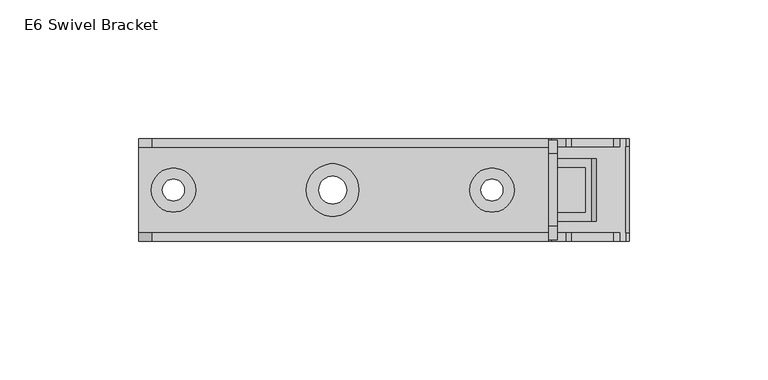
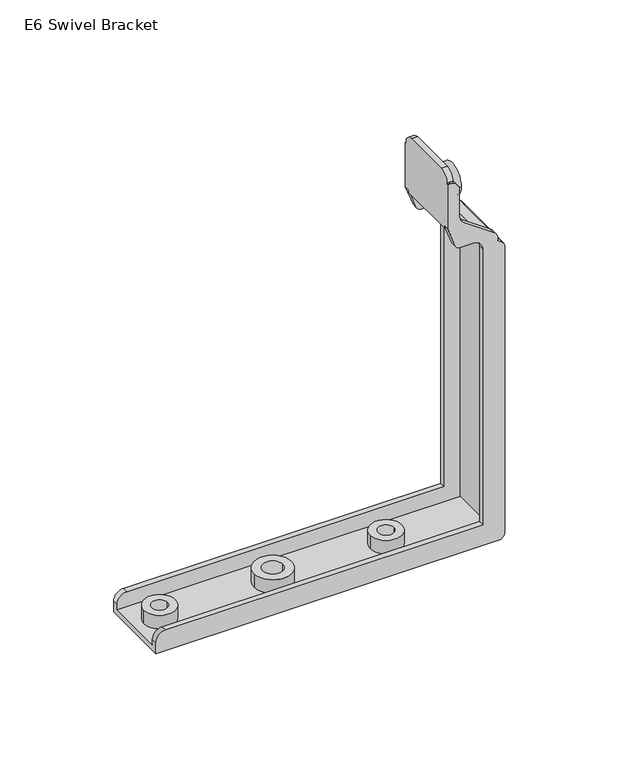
"""IFC4 building model written with IfcOpenShell, lengths in millimetres: proxy geometry, d&b E-Series E6 Swivel Bracket : E6 Swivel Bracket."""

from ifc_helpers import new_model, si_unit, point, frame, frame_2d, origin, origin_2d, place, context, project, spatial, polyline, circle_curve, trimmed, segment, composite_curve, outline, extrude, source, transform, mapped, element, save
from ifc_brep_helpers import plane_surface, cylinder_surface, revolved_surface, advanced_brep


def e6_swivel_bracket_26cc3f17(model_context):
    return source(origin(), model_context, "Body", "SolidModel", [
        advanced_brep(
        [(81.0, -18.0, 11.5825757), (81.0, -15.5, 11.5825757), (81.0, -15.5, -11.2329029), (81.0, 15.5, -11.2329029), (81.0, 15.5, 11.5825757), (81.0, 18.0, 11.5825757), (81.0, 18.0, 12.5), (81.0, 13.0, 17.5), (81.0, -13.0, 17.5), (81.0, -18.0, 12.5), (78.0, 18.0, 12.5), (78.0, 18.0, 12.0), (78.0, 18.5, 12.0), (78.0, 18.5, -11.5897638), (78.0, 15.5, -11.5897638), (78.0, 15.5, -12.794604), (78.0, -15.5, -12.794604), (78.0, -15.5, -11.5897638), (78.0, -18.5, -11.5897638), (78.0, -18.5, 12.0), (78.0, -18.0, 12.0), (78.0, -18.0, 12.5), (78.0, -13.0, 17.5), (78.0, 13.0, 17.5), (79.0, -18.0, 12.0), (79.0, 18.0, 12.0), (78.5885107, -15.5, -13.2066836), (78.5885107, 15.5, -13.2066836), (103.5749026, -15.5, -188.0), (103.5749026, -18.5, -188.0), (-70.0, -18.5, -188.0), (-70.0, 18.5, -188.0), (103.5749026, 18.5, -188.0), (103.5749026, 15.5, -188.0), (-61.4155031, 0.0, -188.0), (-53.4660711, 0.0, -188.0), (61.4155031, 0.0, -188.0), (53.4660711, 0.0, -188.0), (-5.0, 0.0, -188.0), (5.0, 0.0, -188.0), (107.0, -15.5, -31.1095724), (107.0, -18.5, -31.1095724), (107.0, -18.5, -184.5749026), (107.0, -15.5, -184.5749026), (107.0, 15.5, -184.5749026), (107.0, 18.5, -184.5749026), (107.0, 18.5, -31.1095724), (107.0, 15.5, -31.1095724), (105.6309729, 15.5, -28.4796957), (105.6309729, -15.5, -28.4796957), (105.6309729, 18.5, -28.4796957), (103.5, 18.5, -26.9875725), (103.5, 15.5, -26.9875725), (103.5, -15.5, -26.9875725), (103.5, -18.5, -26.9875725), (105.6309729, -18.5, -28.4796957), (95.1387965, -11.25, -21.1329948), (81.2132118, -11.25, -11.3821954), (81.2132118, 11.25, -11.3821954), (95.1387965, 11.25, -21.1329948), (104.0, 15.5, -185.0), (-70.0, 15.5, -185.0), (-70.0, -15.5, -185.0), (104.0, -15.5, -185.0), (-61.4155031, 0.0, -185.0), (-53.4660711, 0.0, -185.0), (61.4155031, 0.0, -185.0), (53.4660711, 0.0, -185.0), (-5.0, 0.0, -185.0), (5.0, 0.0, -185.0), (104.0, -15.5, -31.0), (104.0, 15.5, -31.0), (93.4180672, 11.25, -23.5904509), (79.4924825, 11.25, -13.8396515), (79.4924825, -11.25, -13.8396515), (93.4180672, -11.25, -23.5904509), (84.0, -15.5, 7.0), (84.0, -15.5, -7.0683665), (86.1321178, -15.5, -11.1641267), (101.3678822, -15.5, -21.8323237), (103.5, -15.5, -25.928084), (81.8573688, -15.5, -22.1877975), (-70.0, -15.5, -182.0), (-65.0, -15.5, -177.0), (96.0, -15.5, -177.0), (96.0, -15.5, -28.8228727), (91.0, -15.5, -23.8228727), (84.1924983, -15.5, -23.8228727), (84.0, -18.5, 7.0), (79.0, -18.5, 12.0), (81.8573688, -18.5, -22.1877975), (84.1924983, -18.5, -23.8228727), (91.0, -18.5, -23.8228727), (96.0, -18.5, -28.8228727), (96.0, -18.5, -177.0), (-65.0, -18.5, -177.0), (-70.0, -18.5, -182.0), (103.5, -18.5, -25.928084), (101.3678822, -18.5, -21.8323237), (86.1321178, -18.5, -11.1641267), (84.0, -18.5, -7.0683665), (-70.0, 15.5, -182.0), (81.8573688, 15.5, -22.1877975), (84.1924983, 15.5, -23.8228727), (91.0, 15.5, -23.8228727), (96.0, 15.5, -28.8228727), (96.0, 15.5, -177.0), (-65.0, 15.5, -177.0), (84.0, 15.5, 7.0), (103.5, 15.5, -25.928084), (101.3678822, 15.5, -21.8323237), (86.1321178, 15.5, -11.1641267), (84.0, 15.5, -7.0683665), (84.0, 18.5, 7.0), (84.0, 18.5, -7.0683665), (86.1321178, 18.5, -11.1641267), (101.3678822, 18.5, -21.8323237), (103.5, 18.5, -25.928084), (-70.0, 18.5, -182.0), (-65.0, 18.5, -177.0), (96.0, 18.5, -177.0), (96.0, 18.5, -28.8228727), (91.0, 18.5, -23.8228727), (84.1924983, 18.5, -23.8228727), (81.8573688, 18.5, -22.1877975), (79.0, 18.5, 12.0)],
        [
            (0, 1),
            (1, 2),
            (2, 3),
            (3, 4),
            (4, 5),
            (5, 6),
            (6, 7, circle_curve(frame((81.0, 13.0, 12.5), z_axis=(1.0, 0.0, 0.0), x_axis=(0.0, 0.0, -1.0)), 5.0)),
            (7, 8),
            (8, 9, circle_curve(frame((81.0, -13.0, 12.5), z_axis=(1.0, 0.0, 0.0), x_axis=(0.0, 0.0, -1.0)), 5.0)),
            (9, 0),
            (10, 11),
            (11, 12),
            (12, 13),
            (13, 14),
            (14, 15),
            (15, 16),
            (16, 17),
            (17, 18),
            (18, 19),
            (19, 20),
            (20, 21),
            (21, 22, circle_curve(frame((78.0, -13.0, 12.5), z_axis=(-1.0, 0.0, 0.0), x_axis=(0.0, 0.0, -1.0)), 5.0)),
            (22, 23),
            (23, 10, circle_curve(frame((78.0, 13.0, 12.5), z_axis=(-1.0, 0.0, 0.0), x_axis=(0.0, 0.0, -1.0)), 5.0)),
            (9, 21),
            (20, 24),
            (24, 0, circle_curve(frame((79.0, -18.0, 7.0), z_axis=(0.0, 1.0, 0.0), x_axis=(1.0, 0.0, 0.0)), 5.0)),
            (7, 23),
            (22, 8),
            (6, 10),
            (5, 25, circle_curve(frame((79.0, 18.0, 7.0), z_axis=(0.0, -1.0, 0.0), x_axis=(1.0, 0.0, 0.0)), 5.0)),
            (25, 11),
            (26, 17),
            (16, 26),
            (14, 27),
            (27, 15),
            (28, 29),
            (29, 30),
            (30, 31),
            (31, 32),
            (32, 33),
            (33, 28),
            (34, 35, circle_curve(frame((-57.4407871, 0.0, -188.0), z_axis=(0.0, 0.0, 1.0), x_axis=(1.0, 0.0, 0.0)), 3.974716)),
            (35, 34, circle_curve(frame((-57.4407871, 0.0, -188.0), z_axis=(0.0, 0.0, 1.0), x_axis=(1.0, 0.0, 0.0)), 3.974716)),
            (36, 37, circle_curve(frame((57.4407871, 0.0, -188.0), z_axis=(0.0, 0.0, 1.0), x_axis=(-1.0, 0.0, 0.0)), 3.974716)),
            (37, 36, circle_curve(frame((57.4407871, 0.0, -188.0), z_axis=(0.0, 0.0, 1.0), x_axis=(-1.0, 0.0, 0.0)), 3.974716)),
            (38, 39, circle_curve(frame((0.0, 0.0, -188.0), z_axis=(0.0, 0.0, 1.0), x_axis=(1.0, 0.0, 0.0)), 5.0)),
            (39, 38, circle_curve(frame((0.0, 0.0, -188.0), z_axis=(0.0, 0.0, 1.0), x_axis=(1.0, 0.0, 0.0)), 5.0)),
            (40, 41),
            (41, 42),
            (42, 43),
            (43, 44),
            (44, 45),
            (45, 46),
            (46, 47),
            (47, 40),
            (47, 48, circle_curve(frame((103.7895134, 15.5, -31.1095724), z_axis=(0.0, -1.0, 0.0), x_axis=(1.0, 0.0, 0.0)), 3.2104866)),
            (48, 49),
            (49, 40, circle_curve(frame((103.7895134, -15.5, -31.1095724), z_axis=(0.0, 1.0, 0.0), x_axis=(1.0, 0.0, 0.0)), 3.2104866)),
            (48, 50),
            (50, 51),
            (51, 52),
            (52, 3),
            (2, 53),
            (53, 54),
            (54, 55),
            (55, 49),
            (56, 57),
            (57, 58),
            (58, 59),
            (59, 56),
            (33, 44, circle_curve(frame((103.5749026, 15.5, -184.5749026), z_axis=(0.0, -1.0, 0.0), x_axis=(1.0, 0.0, 0.0)), 3.4250974)),
            (43, 28, circle_curve(frame((103.5749026, -15.5, -184.5749026), z_axis=(0.0, 1.0, 0.0), x_axis=(1.0, 0.0, 0.0)), 3.4250974)),
            (60, 61),
            (61, 62),
            (62, 63),
            (63, 60),
            (64, 65, circle_curve(frame((-57.4407871, 0.0, -185.0), z_axis=(0.0, 0.0, -1.0), x_axis=(1.0, 0.0, 0.0)), 3.974716)),
            (65, 64, circle_curve(frame((-57.4407871, 0.0, -185.0), z_axis=(0.0, 0.0, -1.0), x_axis=(1.0, 0.0, 0.0)), 3.974716)),
            (66, 67, circle_curve(frame((57.4407871, 0.0, -185.0), z_axis=(0.0, 0.0, -1.0), x_axis=(-1.0, 0.0, 0.0)), 3.974716)),
            (67, 66, circle_curve(frame((57.4407871, 0.0, -185.0), z_axis=(0.0, 0.0, -1.0), x_axis=(-1.0, 0.0, 0.0)), 3.974716)),
            (68, 69, circle_curve(frame((0.0, 0.0, -185.0), z_axis=(0.0, 0.0, -1.0), x_axis=(1.0, 0.0, 0.0)), 5.0)),
            (69, 68, circle_curve(frame((0.0, 0.0, -185.0), z_axis=(0.0, 0.0, -1.0), x_axis=(1.0, 0.0, 0.0)), 5.0)),
            (63, 70),
            (70, 71),
            (71, 60),
            (70, 26),
            (27, 71),
            (72, 73),
            (73, 74),
            (74, 75),
            (75, 72),
            (1, 76, circle_curve(frame((79.0, -15.5, 7.0), z_axis=(0.0, 1.0, 0.0), x_axis=(1.0, 0.0, 0.0)), 5.0)),
            (76, 77),
            (77, 78, circle_curve(frame((89.0, -15.5, -7.0683665), z_axis=(0.0, -1.0, 0.0), x_axis=(1.0, 0.0, 0.0)), 5.0)),
            (78, 79),
            (79, 80, circle_curve(frame((98.5, -15.5, -25.928084), z_axis=(0.0, 1.0, 0.0), x_axis=(1.0, 0.0, 0.0)), 5.0)),
            (80, 53),
            (81, 26),
            (62, 82),
            (82, 83, circle_curve(frame((-65.0, -15.5, -182.0), z_axis=(0.0, 1.0, 0.0), x_axis=(1.0, 0.0, 0.0)), 5.0)),
            (83, 84),
            (84, 85),
            (85, 86, circle_curve(frame((91.0, -15.5, -28.8228727), z_axis=(0.0, -1.0, 0.0), x_axis=(1.0, 0.0, 0.0)), 5.0)),
            (86, 87),
            (87, 81, circle_curve(frame((84.1924983, -15.5, -21.3378799), z_axis=(0.0, 1.0, 0.0), x_axis=(1.0, 0.0, 0.0)), 2.4849928)),
            (88, 89, circle_curve(frame((79.0, -18.5, 7.0), z_axis=(0.0, -1.0, 0.0), x_axis=(1.0, 0.0, 0.0)), 5.0)),
            (89, 19),
            (18, 90),
            (90, 91, circle_curve(frame((84.1924983, -18.5, -21.3378799), z_axis=(0.0, -1.0, 0.0), x_axis=(1.0, 0.0, 0.0)), 2.4849928)),
            (91, 92),
            (92, 93, circle_curve(frame((91.0, -18.5, -28.8228727), z_axis=(0.0, 1.0, 0.0), x_axis=(1.0, 0.0, 0.0)), 5.0)),
            (93, 94),
            (94, 95),
            (95, 96, circle_curve(frame((-65.0, -18.5, -182.0), z_axis=(0.0, -1.0, 0.0), x_axis=(1.0, 0.0, 0.0)), 5.0)),
            (96, 30),
            (29, 42, circle_curve(frame((103.5749026, -18.5, -184.5749026), z_axis=(0.0, -1.0, 0.0), x_axis=(1.0, 0.0, 0.0)), 3.4250974)),
            (41, 55, circle_curve(frame((103.7895134, -18.5, -31.1095724), z_axis=(0.0, -1.0, 0.0), x_axis=(1.0, 0.0, 0.0)), 3.2104866)),
            (54, 97),
            (97, 98, circle_curve(frame((98.5, -18.5, -25.928084), z_axis=(0.0, -1.0, 0.0), x_axis=(1.0, 0.0, 0.0)), 5.0)),
            (98, 99),
            (99, 100, circle_curve(frame((89.0, -18.5, -7.0683665), z_axis=(0.0, 1.0, 0.0), x_axis=(1.0, 0.0, 0.0)), 5.0)),
            (100, 88),
            (88, 76),
            (24, 89),
            (81, 90),
            (87, 91),
            (86, 92),
            (85, 93),
            (84, 94),
            (83, 95),
            (82, 96),
            (80, 97),
            (79, 98),
            (78, 99),
            (77, 100),
            (101, 61),
            (27, 102),
            (102, 103, circle_curve(frame((84.1924983, 15.5, -21.3378799), z_axis=(0.0, -1.0, 0.0), x_axis=(1.0, 0.0, 0.0)), 2.4849928)),
            (103, 104),
            (104, 105, circle_curve(frame((91.0, 15.5, -28.8228727), z_axis=(0.0, 1.0, 0.0), x_axis=(1.0, 0.0, 0.0)), 5.0)),
            (105, 106),
            (106, 107),
            (107, 101, circle_curve(frame((-65.0, 15.5, -182.0), z_axis=(0.0, -1.0, 0.0), x_axis=(1.0, 0.0, 0.0)), 5.0)),
            (108, 4, circle_curve(frame((79.0, 15.5, 7.0), z_axis=(0.0, -1.0, 0.0), x_axis=(1.0, 0.0, 0.0)), 5.0)),
            (52, 109),
            (109, 110, circle_curve(frame((98.5, 15.5, -25.928084), z_axis=(0.0, -1.0, 0.0), x_axis=(1.0, 0.0, 0.0)), 5.0)),
            (110, 111),
            (111, 112, circle_curve(frame((89.0, 15.5, -7.0683665), z_axis=(0.0, 1.0, 0.0), x_axis=(1.0, 0.0, 0.0)), 5.0)),
            (112, 108),
            (113, 114),
            (114, 115, circle_curve(frame((89.0, 18.5, -7.0683665), z_axis=(0.0, -1.0, 0.0), x_axis=(1.0, 0.0, 0.0)), 5.0)),
            (115, 116),
            (116, 117, circle_curve(frame((98.5, 18.5, -25.928084), z_axis=(0.0, 1.0, 0.0), x_axis=(1.0, 0.0, 0.0)), 5.0)),
            (117, 51),
            (50, 46, circle_curve(frame((103.7895134, 18.5, -31.1095724), z_axis=(0.0, 1.0, 0.0), x_axis=(1.0, 0.0, 0.0)), 3.2104866)),
            (45, 32, circle_curve(frame((103.5749026, 18.5, -184.5749026), z_axis=(0.0, 1.0, 0.0), x_axis=(1.0, 0.0, 0.0)), 3.4250974)),
            (31, 118),
            (118, 119, circle_curve(frame((-65.0, 18.5, -182.0), z_axis=(0.0, 1.0, 0.0), x_axis=(1.0, 0.0, 0.0)), 5.0)),
            (119, 120),
            (120, 121),
            (121, 122, circle_curve(frame((91.0, 18.5, -28.8228727), z_axis=(0.0, -1.0, 0.0), x_axis=(1.0, 0.0, 0.0)), 5.0)),
            (122, 123),
            (123, 124, circle_curve(frame((84.1924983, 18.5, -21.3378799), z_axis=(0.0, 1.0, 0.0), x_axis=(1.0, 0.0, 0.0)), 2.4849928)),
            (124, 13),
            (12, 125),
            (125, 113, circle_curve(frame((79.0, 18.5, 7.0), z_axis=(0.0, 1.0, 0.0), x_axis=(1.0, 0.0, 0.0)), 5.0)),
            (125, 25),
            (108, 113),
            (124, 102),
            (123, 103),
            (122, 104),
            (121, 105),
            (120, 106),
            (119, 107),
            (118, 101),
            (117, 109),
            (116, 110),
            (115, 111),
            (114, 112),
            (59, 72),
            (75, 56),
            (58, 73),
            (57, 74),
            (65, 35),
            (34, 64),
            (67, 37),
            (36, 66),
            (69, 39),
            (38, 68),
        ],
        [
            plane_surface(frame((81.0, -15.5, 12.4997013), z_axis=(1.0, 0.0, 0.0), x_axis=(0.0, -1.0, 0.0))),
            plane_surface(frame((78.0, -15.5, 12.4997013), z_axis=(-1.0, 0.0, 0.0), x_axis=(0.0, 1.0, 0.0))),
            plane_surface(frame((81.0, -18.0, 11.5825757), z_axis=(0.0, -1.0, 0.0), x_axis=(-1.0, 0.0, 0.0))),
            plane_surface(frame((81.0, -13.0, 17.5), z_axis=(0.0, 0.0, 1.0), x_axis=(-1.0, 0.0, 0.0))),
            cylinder_surface(frame((78.0, 13.0, 12.5), z_axis=(1.0, 0.0, 0.0), x_axis=(0.0, 0.0, -1.0)), 5.0),
            plane_surface(frame((81.0, 18.0, 12.5), z_axis=(0.0, 1.0, 0.0), x_axis=(-1.0, 0.0, 0.0))),
            cylinder_surface(frame((78.0, -13.0, 12.5), z_axis=(1.0, 0.0, 0.0), x_axis=(0.0, 0.0, -1.0)), 5.0),
            plane_surface(frame((107.0, -15.5, -184.5749026), z_axis=(0.0, -1.0, 0.0), x_axis=(0.0, 0.0, -1.0))),
            plane_surface(frame((107.0, 15.5, -184.5749026), z_axis=(0.0, 1.0, 0.0), x_axis=(0.0, 0.0, 1.0))),
            plane_surface(frame((103.5749026, -15.5, -188.0), z_axis=(0.0, 0.0, -1.0), x_axis=(0.0, 1.0, 0.0))),
            plane_surface(frame((107.0, -15.5, -31.1095724), z_axis=(1.0, 0.0, 0.0), x_axis=(0.0, 1.0, 0.0))),
            cylinder_surface(frame((103.7895134, 15.5, -31.1095724), z_axis=(0.0, -1.0, 0.0), x_axis=(1.0, 0.0, 0.0)), 3.2104866),
            plane_surface(frame((81.0, -15.5, -11.2329029), z_axis=(0.5735764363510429, 0.0, 0.819152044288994), x_axis=(0.0, 1.0, 0.0))),
            cylinder_surface(frame((103.5749026, 15.5, -184.5749026), z_axis=(0.0, -1.0, 0.0), x_axis=(1.0, 0.0, 0.0)), 3.4250974),
            plane_surface(frame((99.0, -15.5, -185.0), z_axis=(0.0, 0.0, 1.0), x_axis=(0.0, 1.0, 0.0))),
            plane_surface(frame((104.0, -15.5, -185.0), z_axis=(-1.0, 0.0, 0.0), x_axis=(0.0, 1.0, 0.0))),
            plane_surface(frame((104.0, -15.5, -31.0), z_axis=(-0.5735764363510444, 0.0, -0.8191520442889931), x_axis=(0.0, 1.0, 0.0))),
            plane_surface(frame((84.0, -15.5, 7.0), z_axis=(0.0, 1.0, 0.0), x_axis=(0.0, 0.0, 1.0))),
            plane_surface(frame((84.0, -18.5, 7.0), z_axis=(0.0, -1.0, 0.0), x_axis=(0.0, 0.0, -1.0))),
            cylinder_surface(frame((79.0, -18.5, 7.0), z_axis=(0.0, 1.0, 0.0), x_axis=(1.0, 0.0, 0.0)), 5.0),
            plane_surface(frame((79.0, -15.5, 12.0), z_axis=(0.0, 0.0, 1.0), x_axis=(0.0, -1.0, 0.0))),
            plane_surface(frame((78.0, -15.5, -11.5897638), z_axis=(-0.9396926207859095, 0.0, -0.34202014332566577), x_axis=(0.0, -1.0, 0.0))),
            cylinder_surface(frame((84.1924983, -18.5, -21.3378799), z_axis=(0.0, 1.0, 0.0), x_axis=(1.0, 0.0, 0.0)), 2.4849928),
            plane_surface(frame((84.1924983, -15.5, -23.8228727), z_axis=(0.0, 0.0, -1.0), x_axis=(0.0, -1.0, 0.0))),
            revolved_surface(polyline([(96.0, -18.5, -28.8228727), (96.0, -15.5, -28.8228727)]), (91.0, -18.5, -28.8228727), (0.0, -1.0, 0.0)),
            plane_surface(frame((96.0, -15.5, -28.8228727), z_axis=(-1.0, 0.0, 0.0), x_axis=(0.0, -1.0, 0.0))),
            plane_surface(frame((96.0, -15.5, -177.0), z_axis=(0.0, 0.0, 1.0), x_axis=(0.0, -1.0, 0.0))),
            cylinder_surface(frame((-65.0, -18.5, -182.0), z_axis=(0.0, 1.0, 0.0), x_axis=(1.0, 0.0, 0.0)), 5.0),
            cylinder_surface(frame((103.7895134, -18.5, -31.1095724), z_axis=(0.0, 1.0, 0.0), x_axis=(1.0, 0.0, 0.0)), 3.2104866),
            plane_surface(frame((103.5, -15.5, -26.9875725), z_axis=(1.0, 0.0, 0.0), x_axis=(0.0, -1.0, 0.0))),
            cylinder_surface(frame((98.5, -18.5, -25.928084), z_axis=(0.0, 1.0, 0.0), x_axis=(1.0, 0.0, 0.0)), 5.0),
            plane_surface(frame((101.3678822, -15.5, -21.8323237), z_axis=(0.5735764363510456, 0.0, 0.8191520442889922), x_axis=(0.0, -1.0, 0.0))),
            revolved_surface(polyline([(94.0, -18.5, -7.0683665), (94.0, -15.5, -7.0683665)]), (89.0, -18.5, -7.0683665), (0.0, -1.0, 0.0)),
            plane_surface(frame((84.0, -15.5, -7.0683665), z_axis=(1.0, 0.0, 0.0), x_axis=(0.0, -1.0, 0.0))),
            plane_surface(frame((84.0, 15.5, -7.0683665), z_axis=(0.0, -1.0, 0.0), x_axis=(0.0, 0.0, -1.0))),
            plane_surface(frame((84.0, 18.5, -7.0683665), z_axis=(0.0, 1.0, 0.0), x_axis=(0.0, 0.0, 1.0))),
            cylinder_surface(frame((79.0, 18.5, 7.0), z_axis=(0.0, -1.0, 0.0), x_axis=(1.0, 0.0, 0.0)), 5.0),
            plane_surface(frame((78.0, 15.5, 12.0), z_axis=(0.0, 0.0, 1.0), x_axis=(0.0, 1.0, 0.0))),
            plane_surface(frame((81.8573688, 15.5, -22.1877975), z_axis=(-0.9396926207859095, 0.0, -0.34202014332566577), x_axis=(0.0, 1.0, 0.0))),
            cylinder_surface(frame((84.1924983, 18.5, -21.3378799), z_axis=(0.0, -1.0, 0.0), x_axis=(1.0, 0.0, 0.0)), 2.4849928),
            plane_surface(frame((91.0, 15.5, -23.8228727), z_axis=(0.0, 0.0, -1.0), x_axis=(0.0, 1.0, 0.0))),
            revolved_surface(polyline([(96.0, 18.5, -28.8228727), (96.0, 15.5, -28.8228727)]), (91.0, 18.5, -28.8228727), (0.0, 1.0, 0.0)),
            plane_surface(frame((96.0, 15.5, -177.0), z_axis=(-1.0, 0.0, 0.0), x_axis=(0.0, 1.0, 0.0))),
            plane_surface(frame((-65.0, 15.5, -177.0), z_axis=(0.0, 0.0, 1.0), x_axis=(0.0, 1.0, 0.0))),
            cylinder_surface(frame((-65.0, 18.5, -182.0), z_axis=(0.0, -1.0, 0.0), x_axis=(1.0, 0.0, 0.0)), 5.0),
            cylinder_surface(frame((103.7895134, 18.5, -31.1095724), z_axis=(0.0, -1.0, 0.0), x_axis=(1.0, 0.0, 0.0)), 3.2104866),
            plane_surface(frame((103.5, 15.5, -25.928084), z_axis=(1.0, 0.0, 0.0), x_axis=(0.0, 1.0, 0.0))),
            cylinder_surface(frame((98.5, 18.5, -25.928084), z_axis=(0.0, -1.0, 0.0), x_axis=(1.0, 0.0, 0.0)), 5.0),
            plane_surface(frame((86.1321178, 15.5, -11.1641267), z_axis=(0.5735764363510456, 0.0, 0.8191520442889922), x_axis=(0.0, 1.0, 0.0))),
            revolved_surface(polyline([(94.0, 18.5, -7.0683665), (94.0, 15.5, -7.0683665)]), (89.0, 18.5, -7.0683665), (0.0, 1.0, 0.0)),
            plane_surface(frame((84.0, 15.5, 7.0), z_axis=(1.0, 0.0, 0.0), x_axis=(0.0, 1.0, 0.0))),
            cylinder_surface(frame((103.5749026, -18.5, -184.5749026), z_axis=(0.0, 1.0, 0.0), x_axis=(1.0, 0.0, 0.0)), 3.4250974),
            cylinder_surface(frame((103.5749026, 18.5, -184.5749026), z_axis=(0.0, -1.0, 0.0), x_axis=(1.0, 0.0, 0.0)), 3.4250974),
            plane_surface(frame((-70.0, -15.5, -182.0), z_axis=(-1.0, 0.0, 0.0), x_axis=(0.0, -1.0, 0.0))),
            plane_surface(frame((91.4532615, -11.25, -26.3964843), z_axis=(-0.819152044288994, 0.0, 0.573576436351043), x_axis=(0.573576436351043, 0.0, 0.819152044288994))),
            plane_surface(frame((91.4532615, 11.25, -26.3964843), z_axis=(0.0, -1.0, 0.0), x_axis=(0.573576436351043, 0.0, 0.819152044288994))),
            plane_surface(frame((77.5276767, 11.25, -16.6456849), z_axis=(0.8191520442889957, 0.0, -0.5735764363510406), x_axis=(0.5735764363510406, 0.0, 0.8191520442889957))),
            plane_surface(frame((77.5276767, -11.25, -16.6456849), z_axis=(0.0, 1.0, 0.0), x_axis=(0.573576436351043, 0.0, 0.819152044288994))),
            revolved_surface(polyline([(-53.4660711, 0.0, -185.0), (-53.4660711, 0.0, -188.0)]), (-57.4407871, 0.0, -188.0), (0.0, 0.0, 1.0)),
            revolved_surface(polyline([(53.4660711, 0.0, -185.0), (53.4660711, 0.0, -188.0)]), (57.4407871, 0.0, -188.0), (0.0, 0.0, 1.0)),
            revolved_surface(polyline([(5.0, 0.0, -185.0), (5.0, 0.0, -188.0)]), (0.0, 0.0, -188.0), (0.0, 0.0, 1.0)),
        ],
        [
            (0, [[1, 2, 3, 4, 5, 6, 7, 8, 9, 10]]),
            (1, [[11, 12, 13, 14, 15, 16, 17, 18, 19, 20, 21, 22, 23, 24]]),
            (2, [[25, -21, 26, 27, -10]]),
            (3, [[28, -23, 29, -8]]),
            (4, [[30, -24, -28, -7]]),
            (5, [[31, 32, -11, -30, -6]]),
            (6, [[-29, -22, -25, -9]]),
            (7, [[33, -17, 34]]),
            (8, [[35, 36, -15]]),
            (9, [[37, 38, 39, 40, 41, 42], [43, 44], [45, 46], [47, 48]]),
            (10, [[49, 50, 51, 52, 53, 54, 55, 56]]),
            (11, [[57, 58, 59, -56]]),
            (12, [[60, 61, 62, 63, -3, 64, 65, 66, 67, -58], [68, 69, 70, 71]]),
            (13, [[72, -52, 73, -42]]),
            (14, [[74, 75, 76, 77], [78, 79], [80, 81], [82, 83]]),
            (15, [[84, 85, 86, -77]]),
            (16, [[87, -34, -16, -36, 88, -85], [89, 90, 91, 92]]),
            (17, [[-64, -2, 93, 94, 95, 96, 97, 98]]),
            (17, [[99, -87, -84, -76, 100, 101, 102, 103, 104, 105, 106]]),
            (18, [[107, 108, -19, 109, 110, 111, 112, 113, 114, 115, 116, -38, 117, -50, 118, -66, 119, 120, 121, 122, 123]]),
            (19, [[124, -93, -1, -27, 125, -107]]),
            (20, [[-125, -26, -20, -108]]),
            (21, [[-18, -33, -99, 126, -109]]),
            (22, [[127, -110, -126, -106]]),
            (23, [[128, -111, -127, -105]]),
            (24, [[129, -112, -128, -104]]),
            (25, [[130, -113, -129, -103]]),
            (26, [[131, -114, -130, -102]]),
            (27, [[132, -115, -131, -101]]),
            (28, [[-49, -59, -67, -118]]),
            (29, [[133, -119, -65, -98]]),
            (30, [[134, -120, -133, -97]]),
            (31, [[135, -121, -134, -96]]),
            (32, [[136, -122, -135, -95]]),
            (33, [[-124, -123, -136, -94]]),
            (34, [[137, -74, -86, -88, 138, 139, 140, 141, 142, 143, 144]]),
            (34, [[145, -4, -63, 146, 147, 148, 149, 150]]),
            (35, [[151, 152, 153, 154, 155, -61, 156, -54, 157, -40, 158, 159, 160, 161, 162, 163, 164, 165, -13, 166, 167]]),
            (36, [[168, -31, -5, -145, 169, -167]]),
            (37, [[-12, -32, -168, -166]]),
            (38, [[170, -138, -35, -14, -165]]),
            (39, [[-170, -164, 171, -139]]),
            (40, [[-171, -163, 172, -140]]),
            (41, [[-172, -162, 173, -141]]),
            (42, [[-173, -161, 174, -142]]),
            (43, [[-174, -160, 175, -143]]),
            (44, [[-175, -159, 176, -144]]),
            (45, [[-60, -57, -55, -156]]),
            (46, [[-62, -155, 177, -146]]),
            (47, [[-177, -154, 178, -147]]),
            (48, [[-178, -153, 179, -148]]),
            (49, [[-179, -152, 180, -149]]),
            (50, [[-180, -151, -169, -150]]),
            (51, [[-37, -73, -51, -117]]),
            (52, [[-53, -72, -41, -157]]),
            (53, [[-132, -100, -75, -137, -176, -158, -39, -116]]),
            (54, [[-71, 181, -92, 182]]),
            (55, [[-70, 183, -89, -181]]),
            (56, [[-69, 184, -90, -183]]),
            (57, [[-91, -184, -68, -182]]),
            (58, [[185, -43, 186, -79]]),
            (58, [[-186, -44, -185, -78]]),
            (59, [[187, -45, 188, -81]]),
            (59, [[-188, -46, -187, -80]]),
            (60, [[189, -47, 190, -83]]),
            (60, [[-190, -48, -189, -82]]),
        ],
    ),
        extrude(outline(composite_curve([segment(trimmed(circle_curve(origin_2d(), 9.4817959), [point((-9.4817959, 0.0))], [point((9.4817959, 0.0))], False, "CARTESIAN"), True, "CONTINUOUS"), segment(trimmed(circle_curve(origin_2d(), 9.4817959), [point((9.4817959, 0.0))], [point((-9.4817959, 0.0))], False, "CARTESIAN"), True, "CONTINUOUS")], self_intersect=False), holes=[composite_curve([segment(trimmed(circle_curve(origin_2d(), 5.0), [point((-5.0, 0.0))], [point((5.0, 0.0))], True, "CARTESIAN"), True, "CONTINUOUS"), segment(trimmed(circle_curve(origin_2d(), 5.0), [point((5.0, 0.0))], [point((-5.0, 0.0))], True, "CARTESIAN"), True, "CONTINUOUS")], self_intersect=False)]), frame((0.0, 0.0, -185.0), z_axis=(0.0, 0.0, 1.0), x_axis=(1.0, 0.0, 0.0)), (0.0, 0.0, 1.0), 7.6),
        extrude(outline(composite_curve([segment(trimmed(circle_curve(frame_2d((57.4407871, 0.0)), 7.9633792), [point((49.4774079, 0.0))], [point((65.4041663, 0.0))], False, "CARTESIAN"), True, "CONTINUOUS"), segment(trimmed(circle_curve(frame_2d((57.4407871, 0.0)), 7.9633792), [point((65.4041663, 0.0))], [point((49.4774079, 0.0))], False, "CARTESIAN"), True, "CONTINUOUS")], self_intersect=False), holes=[composite_curve([segment(trimmed(circle_curve(frame_2d((57.4407871, 0.0)), 3.974716), [point((61.4155031, 0.0))], [point((53.4660711, 0.0))], True, "CARTESIAN"), True, "CONTINUOUS"), segment(trimmed(circle_curve(frame_2d((57.4407871, 0.0)), 3.974716), [point((53.4660711, 0.0))], [point((61.4155031, 0.0))], True, "CARTESIAN"), True, "CONTINUOUS")], self_intersect=False)]), frame((0.0, 0.0, -185.0), z_axis=(0.0, 0.0, 1.0), x_axis=(1.0, 0.0, 0.0)), (0.0, 0.0, 1.0), 7.6),
        extrude(outline(composite_curve([segment(trimmed(circle_curve(frame_2d((-57.4407871, 0.0)), 7.9633792), [point((-49.4774079, 0.0))], [point((-65.4041663, 0.0))], False, "CARTESIAN"), True, "CONTINUOUS"), segment(trimmed(circle_curve(frame_2d((-57.4407871, 0.0)), 7.9633792), [point((-65.4041663, 0.0))], [point((-49.4774079, 0.0))], False, "CARTESIAN"), True, "CONTINUOUS")], self_intersect=False), holes=[composite_curve([segment(trimmed(circle_curve(frame_2d((-57.4407871, 0.0)), 3.974716), [point((-61.4155031, 0.0))], [point((-53.4660711, 0.0))], True, "CARTESIAN"), True, "CONTINUOUS"), segment(trimmed(circle_curve(frame_2d((-57.4407871, 0.0)), 3.974716), [point((-53.4660711, 0.0))], [point((-61.4155031, 0.0))], True, "CARTESIAN"), True, "CONTINUOUS")], self_intersect=False)]), frame((0.0, 0.0, -185.0), z_axis=(0.0, 0.0, 1.0), x_axis=(1.0, 0.0, 0.0)), (0.0, 0.0, 1.0), 7.6),
        extrude(outline(composite_curve([segment(trimmed(circle_curve(origin_2d(), 8.0341192), [point((-8.0341192, 0.0))], [point((8.0341192, 0.0))], False, "CARTESIAN"), True, "CONTINUOUS"), segment(trimmed(circle_curve(origin_2d(), 8.0341192), [point((8.0341192, 0.0))], [point((-8.0341192, 0.0))], False, "CARTESIAN"), True, "CONTINUOUS")], self_intersect=False)), frame((81.0, 0.0, 0.0), z_axis=(1.0, 0.0, 0.0), x_axis=(0.0, 1.0, 0.0)), (0.0, 0.0, 1.0), 10.0),
    ])


if __name__ == "__main__":
    model = new_model("IFC4")
    model_context = context("Model", 3, world=origin())
    ifc_project = project(units=[si_unit("LENGTHUNIT", "METRE", prefix="MILLI")], contexts=[model_context])
    site = spatial("IfcSite", under=ifc_project)
    building = spatial("IfcBuilding", under=site)
    placement = place(None, origin())
    e6_swivel_bracket_shape = e6_swivel_bracket_26cc3f17(model_context)
    element("IfcBuildingElementProxy", 1, Name="d&b E-Series E6 Swivel Bracket : E6 Swivel Bracket", ObjectType="d&b E-Series E6 Swivel Bracket : E6 Swivel Bracket", at=placement, inside=building, context=model_context, shape_type="MappedRepresentation", body=[
        mapped(e6_swivel_bracket_shape, transform((0.0, 0.0, 0.0), x_axis=(1.0, 0.0, 0.0), y_axis=(0.0, 1.0, 0.0), z_axis=(0.0, 0.0, 1.0))),
    ])
    save(model, "model.ifc")
